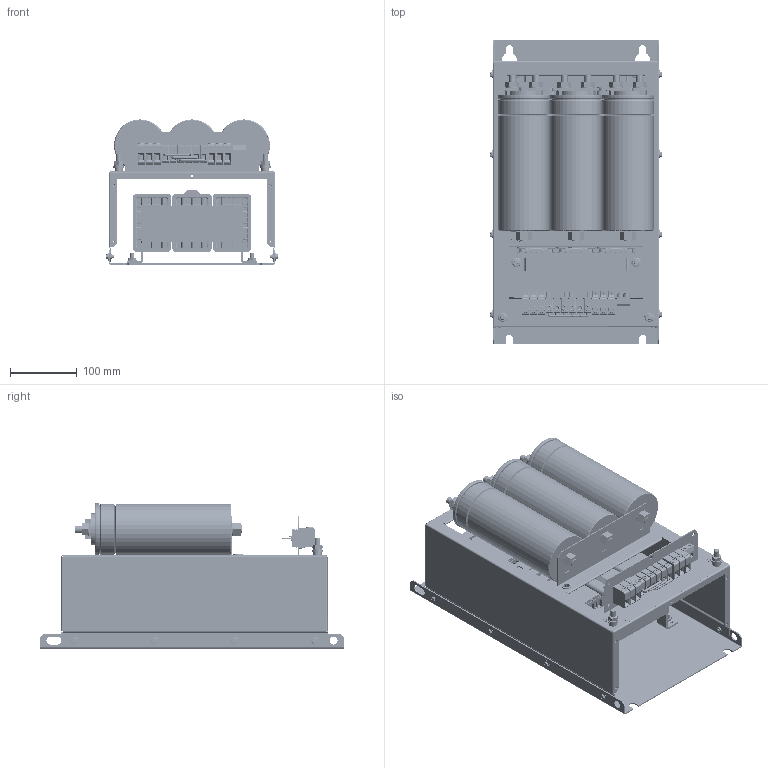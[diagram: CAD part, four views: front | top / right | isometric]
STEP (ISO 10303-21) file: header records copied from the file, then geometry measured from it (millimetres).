
FILE_DESCRIPTION(/* description */ (''),/* implementation_level */ '2;1');
FILE_NAME(/* name */ 'C:\Users\Erika.Jenzer\OneDrive - Schaffner EMV AG\Desktop\Plutus Customer STEP\CUSTOMER IP00 FS B.stp',/* time_stamp */ '2023-05-12T08:41:04+02:00',/* author */ ('erika.jenzer'),/* organization */ (''),/* preprocessor_version */ 'ST-DEVELOPER v18.1',/* originating_system */ 'Autodesk Inventor 2020',/* authorisation */ '');
FILE_SCHEMA (('AUTOMOTIVE_DESIGN { 1 0 10303 214 3 1 1 }'));
Products named in the file (1): CUSTOMER IP00 FS B
Bounding box: 257.14 x 455 x 218 mm (x, y, z)
Volume: 7102691.8 mm3; surface area: 1305807.5 mm2
Topology: 2 solids, 2 shells, 8013 faces, 19880 edges, 12241 vertices
Faces by surface type: plane 3982, cylinder 2954, bspline 346, cone 329, torus 294, sphere 108
Full cylindrical faces by diameter (mm): 1 x14, 2.8 x2, 3.242 x8, 4 x11, 4.5 x6, 5 x16, 5.1 x6, 5.5 x17, 6 x12, 6.5 x4, 7 x4, 7.323 x2, 7.9 x8, 8 x6, 8.4 x2, 8.5 x6, 8.7 x4, 9 x6, 9.9 x3, 10 x12, 10.5 x2, 11.4 x2, 12 x13, 12.5 x1, 12.65 x2, 12.7 x1, 14.2 x4, 14.5 x1, 16 x2, 20 x9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
Entity records: 252240 total; most frequent: CARTESIAN_POINT 52468, DIRECTION 41049, ORIENTED_EDGE 39616, EDGE_CURVE 19808, AXIS2_PLACEMENT_3D 14399, LINE 12251, VECTOR 12251, VERTEX_POINT 12241
